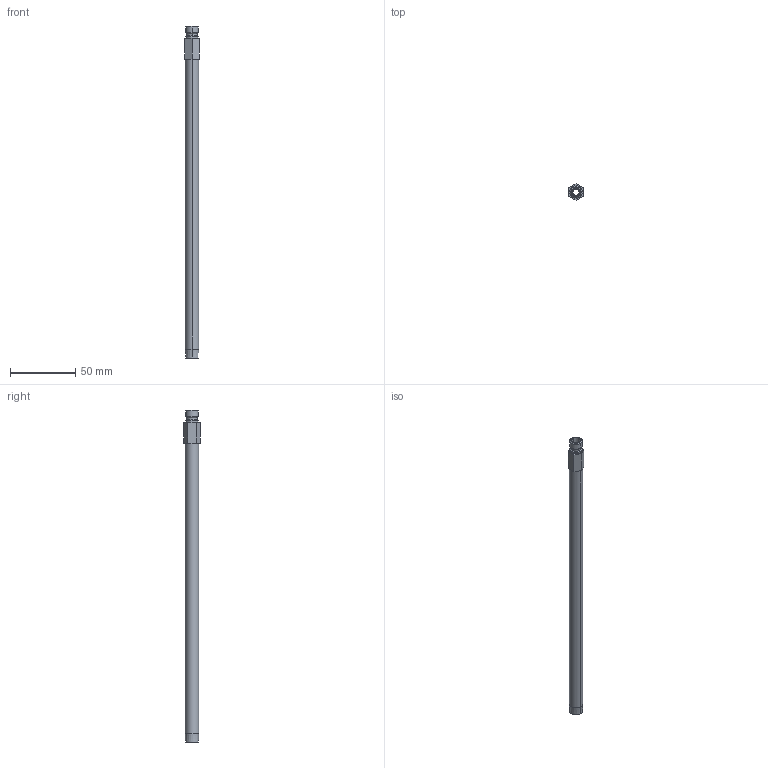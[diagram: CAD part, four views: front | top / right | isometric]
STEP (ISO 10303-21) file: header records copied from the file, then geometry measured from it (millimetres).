
FILE_DESCRIPTION (( 'STEP AP203' ), '1' );
FILE_NAME ('251L10-SS.step', '2023-03-09T02:40:45', ( '' ), ( '' ), 'SwSTEP 2.0', 'SolidWorks 2020', '' );
FILE_SCHEMA (( 'CONFIG_CONTROL_DESIGN' ));
Length unit declared in the file: inch
Products named in the file (1): 251L10-SS
Bounding box: 10.92 x 12.61 x 254 mm (x, y, z)
Volume: 16580.2 mm3; surface area: 12273 mm2
Topology: 1 solids, 1 shells, 31 faces, 66 edges, 40 vertices
Faces by surface type: cylinder 12, plane 11, cone 8
Entity records: 915 total; most frequent: DIRECTION 158, CARTESIAN_POINT 138, ORIENTED_EDGE 132, EDGE_CURVE 66, AXIS2_PLACEMENT_3D 60, VERTEX_POINT 40, LINE 38, VECTOR 38
